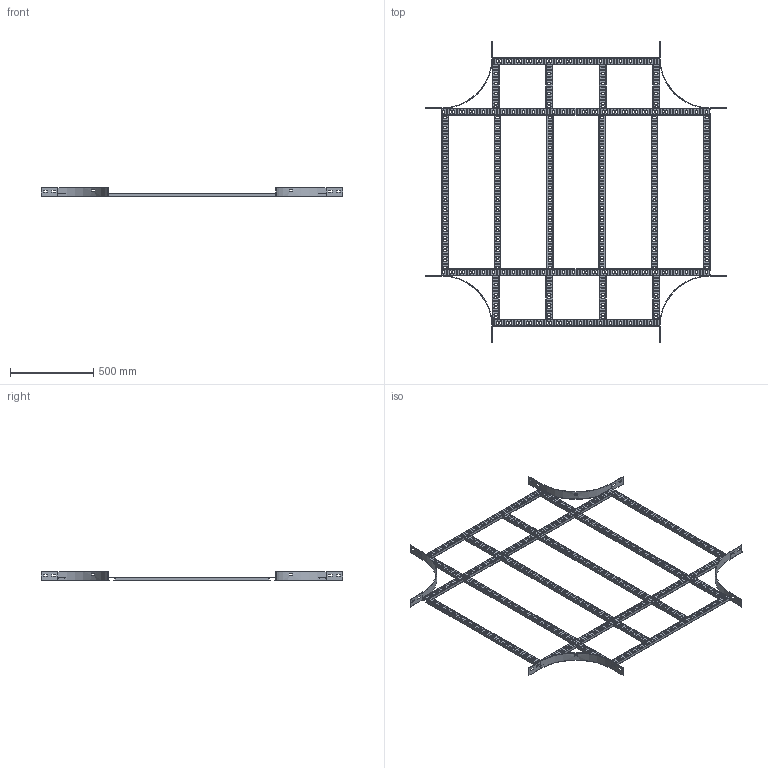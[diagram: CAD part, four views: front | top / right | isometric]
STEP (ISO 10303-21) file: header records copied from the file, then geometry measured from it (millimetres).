
FILE_DESCRIPTION(/* description */ ('','CAx-IF Rec.Pracs.---Representation and Presentation of Product Manufacturing Information (PMI)---4.0---2014-10-13'),/* implementation_level */ '2;1');
FILE_NAME(/* name */ 'Eurostrut_ECO60-1000-300_Crossover for Cable Ladder ECL.step',/* time_stamp */ '2026-09-03T13:22:10+02:00',/* author */ (''),/* organization */ (''),/* preprocessor_version */ 'ST-DEVELOPER v20.1',/* originating_system */ 'Autodesk Revit 2027 27.2.0.39',/* authorisation */ '');
FILE_SCHEMA (('AP242_MANAGED_MODEL_BASED_3D_ENGINEERING_MIM_LF { 1 0 10303 442 2 1 4 }'));
Products named in the file (10): TopLevelAssembly; Sweep; Sweep_1; Sweep_2; Sweep_3; Eurostrut_Cable Ladder_Rung_With slots; Eurostrut_Cable Ladder_Rung_With slots_1; Eurostrut_Cable Ladder_Rung Array Straight_Slotted; Eurostrut_Cable Ladder_Rung Array Straight_Slotted_1; Eurostrut_Cable Ladder_Accessory End_54-94-142
Assembly tree (19 placements, depth 2):
  TopLevelAssembly
    Sweep
    Sweep_1
    Eurostrut_Cable Ladder_Rung_With slots  x2
    Eurostrut_Cable Ladder_Rung_With slots_1  x2
    Sweep_2
    Sweep_3
    Eurostrut_Cable Ladder_Rung Array Straight_Slotted
    Eurostrut_Cable Ladder_Rung Array Straight_Slotted_1  x2
    Eurostrut_Cable Ladder_Accessory End_54-94-142  x8
Bounding box: 1811 x 1811 x 54 mm (x, y, z)
Volume: 2000565.7 mm3; surface area: 2506594.3 mm2
Topology: 30 solids, 30 shells, 3044 faces, 8952 edges, 5968 vertices
Faces by surface type: plane 1680, bspline 1284, cylinder 80
Entity records: 98458 total; most frequent: CARTESIAN_POINT 40889, ORIENTED_EDGE 12432, DIRECTION 10614, EDGE_CURVE 6216, LINE 4252, VECTOR 4252, VERTEX_POINT 4144, AXIS2_PLACEMENT_3D 3181
